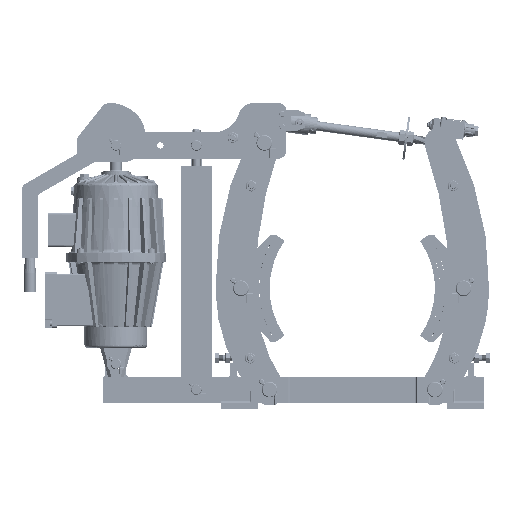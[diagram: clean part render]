
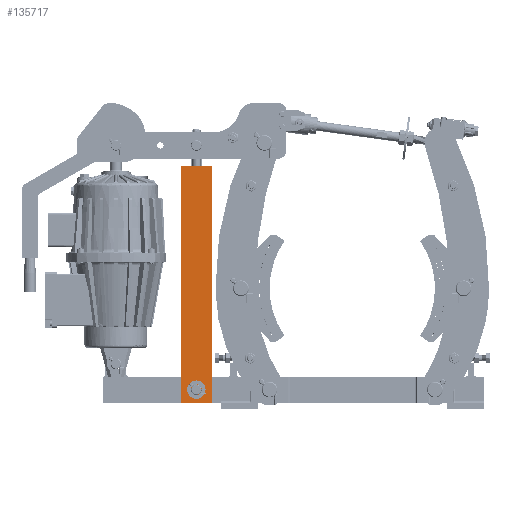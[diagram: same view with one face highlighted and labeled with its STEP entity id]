
A CAD part, left-side view. The second image highlights one B-rep face of the part: STEP entity #135717.
In plain terms, the highlighted planar face has unit normal (-1, 0, 0).
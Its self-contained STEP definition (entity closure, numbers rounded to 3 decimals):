
#135560=DIRECTION('',(0.,-1.,0.));
#135561=VECTOR('',#135560,60.);
#135562=CARTESIAN_POINT('',(-90.,577.,462.));
#135563=LINE('',#135562,#135561);
#135567=DIRECTION('',(0.,0.,-1.));
#135568=VECTOR('',#135567,450.);
#135569=CARTESIAN_POINT('',(-90.,517.,462.));
#135570=LINE('',#135569,#135568);
#135574=DIRECTION('',(0.,1.,0.));
#135575=VECTOR('',#135574,60.);
#135576=CARTESIAN_POINT('',(-90.,517.,12.));
#135577=LINE('',#135576,#135575);
#135581=DIRECTION('',(0.,0.,1.));
#135582=VECTOR('',#135581,450.);
#135583=CARTESIAN_POINT('',(-90.,577.,12.));
#135584=LINE('',#135583,#135582);
#135588=CARTESIAN_POINT('',(-90.,537.,37.));
#135589=CARTESIAN_POINT('',(-90.,537.,37.328));
#135590=CARTESIAN_POINT('',(-90.,537.032,37.982));
#135591=CARTESIAN_POINT('',(-90.,537.176,38.955));
#135592=CARTESIAN_POINT('',(-90.,537.415,39.908));
#135593=CARTESIAN_POINT('',(-90.,537.746,40.832));
#135594=CARTESIAN_POINT('',(-90.,538.167,41.723));
#135595=CARTESIAN_POINT('',(-90.,538.674,42.568));
#135596=CARTESIAN_POINT('',(-90.,539.261,43.358));
#135597=CARTESIAN_POINT('',(-90.,539.922,44.086));
#135598=CARTESIAN_POINT('',(-90.,540.65,44.746));
#135599=CARTESIAN_POINT('',(-90.,541.439,45.331));
#135600=CARTESIAN_POINT('',(-90.,542.282,45.835));
#135601=CARTESIAN_POINT('',(-90.,543.171,46.255));
#135602=CARTESIAN_POINT('',(-90.,544.093,46.585));
#135603=CARTESIAN_POINT('',(-90.,545.045,46.823));
#135604=CARTESIAN_POINT('',(-90.,546.018,46.968));
#135605=CARTESIAN_POINT('',(-90.,546.671,47.));
#135606=CARTESIAN_POINT('',(-90.,547.,47.));
#135611=CARTESIAN_POINT('',(-90.,547.,47.));
#135612=CARTESIAN_POINT('',(-90.,547.328,47.));
#135613=CARTESIAN_POINT('',(-90.,547.982,46.968));
#135614=CARTESIAN_POINT('',(-90.,548.955,46.824));
#135615=CARTESIAN_POINT('',(-90.,549.908,46.585));
#135616=CARTESIAN_POINT('',(-90.,550.832,46.254));
#135617=CARTESIAN_POINT('',(-90.,551.723,45.833));
#135618=CARTESIAN_POINT('',(-90.,552.568,45.326));
#135619=CARTESIAN_POINT('',(-90.,553.358,44.739));
#135620=CARTESIAN_POINT('',(-90.,554.086,44.078));
#135621=CARTESIAN_POINT('',(-90.,554.746,43.35));
#135622=CARTESIAN_POINT('',(-90.,555.331,42.561));
#135623=CARTESIAN_POINT('',(-90.,555.835,41.718));
#135624=CARTESIAN_POINT('',(-90.,556.255,40.829));
#135625=CARTESIAN_POINT('',(-90.,556.585,39.907));
#135626=CARTESIAN_POINT('',(-90.,556.823,38.955));
#135627=CARTESIAN_POINT('',(-90.,556.968,37.982));
#135628=CARTESIAN_POINT('',(-90.,557.,37.329));
#135629=CARTESIAN_POINT('',(-90.,557.,37.));
#135634=CARTESIAN_POINT('',(-90.,557.,37.));
#135635=CARTESIAN_POINT('',(-90.,557.,36.672));
#135636=CARTESIAN_POINT('',(-90.,556.968,36.018));
#135637=CARTESIAN_POINT('',(-90.,556.824,35.045));
#135638=CARTESIAN_POINT('',(-90.,556.585,34.092));
#135639=CARTESIAN_POINT('',(-90.,556.254,33.168));
#135640=CARTESIAN_POINT('',(-90.,555.833,32.277));
#135641=CARTESIAN_POINT('',(-90.,555.326,31.432));
#135642=CARTESIAN_POINT('',(-90.,554.739,30.642));
#135643=CARTESIAN_POINT('',(-90.,554.078,29.914));
#135644=CARTESIAN_POINT('',(-90.,553.35,29.254));
#135645=CARTESIAN_POINT('',(-90.,552.561,28.669));
#135646=CARTESIAN_POINT('',(-90.,551.718,28.165));
#135647=CARTESIAN_POINT('',(-90.,550.829,27.745));
#135648=CARTESIAN_POINT('',(-90.,549.907,27.415));
#135649=CARTESIAN_POINT('',(-90.,548.955,27.177));
#135650=CARTESIAN_POINT('',(-90.,547.982,27.032));
#135651=CARTESIAN_POINT('',(-90.,547.329,27.));
#135652=CARTESIAN_POINT('',(-90.,547.,27.));
#135657=CARTESIAN_POINT('',(-90.,547.,27.));
#135658=CARTESIAN_POINT('',(-90.,546.672,27.));
#135659=CARTESIAN_POINT('',(-90.,546.018,27.032));
#135660=CARTESIAN_POINT('',(-90.,545.045,27.176));
#135661=CARTESIAN_POINT('',(-90.,544.092,27.415));
#135662=CARTESIAN_POINT('',(-90.,543.168,27.746));
#135663=CARTESIAN_POINT('',(-90.,542.277,28.167));
#135664=CARTESIAN_POINT('',(-90.,541.432,28.674));
#135665=CARTESIAN_POINT('',(-90.,540.642,29.261));
#135666=CARTESIAN_POINT('',(-90.,539.914,29.922));
#135667=CARTESIAN_POINT('',(-90.,539.254,30.65));
#135668=CARTESIAN_POINT('',(-90.,538.669,31.439));
#135669=CARTESIAN_POINT('',(-90.,538.165,32.282));
#135670=CARTESIAN_POINT('',(-90.,537.745,33.171));
#135671=CARTESIAN_POINT('',(-90.,537.415,34.093));
#135672=CARTESIAN_POINT('',(-90.,537.177,35.045));
#135673=CARTESIAN_POINT('',(-90.,537.032,36.018));
#135674=CARTESIAN_POINT('',(-90.,537.,36.671));
#135675=CARTESIAN_POINT('',(-90.,537.,37.));
#135680=CARTESIAN_POINT('',(-90.,577.,462.));
#135681=CARTESIAN_POINT('',(-90.,517.,462.));
#135682=VERTEX_POINT('',#135680);
#135683=VERTEX_POINT('',#135681);
#135684=CARTESIAN_POINT('',(-90.,517.,12.));
#135685=VERTEX_POINT('',#135684);
#135686=CARTESIAN_POINT('',(-90.,577.,12.));
#135687=VERTEX_POINT('',#135686);
#135688=VERTEX_POINT('',#135588);
#135689=VERTEX_POINT('',#135606);
#135690=VERTEX_POINT('',#135629);
#135691=VERTEX_POINT('',#135652);
#135692=CARTESIAN_POINT('',(-90.,547.,237.));
#135693=DIRECTION('',(1.,0.,0.));
#135694=DIRECTION('',(0.,0.,1.));
#135695=AXIS2_PLACEMENT_3D('',#135692,#135693,#135694);
#135696=PLANE('',#135695);
#135698=ORIENTED_EDGE('',*,*,#135697,.T.);
#135700=ORIENTED_EDGE('',*,*,#135699,.T.);
#135702=ORIENTED_EDGE('',*,*,#135701,.T.);
#135704=ORIENTED_EDGE('',*,*,#135703,.T.);
#135705=EDGE_LOOP('',(#135698,#135700,#135702,#135704));
#135706=FACE_OUTER_BOUND('',#135705,.F.);
#135708=ORIENTED_EDGE('',*,*,#135707,.T.);
#135710=ORIENTED_EDGE('',*,*,#135709,.T.);
#135712=ORIENTED_EDGE('',*,*,#135711,.T.);
#135714=ORIENTED_EDGE('',*,*,#135713,.T.);
#135715=EDGE_LOOP('',(#135708,#135710,#135712,#135714));
#135716=FACE_BOUND('',#135715,.F.);
#135717=ADVANCED_FACE('',(#135706,#135716),#135696,.F.);
#135607=B_SPLINE_CURVE_WITH_KNOTS('',3,(#135588,#135589,#135590,#135591,#135592,
#135593,#135594,#135595,#135596,#135597,#135598,#135599,#135600,#135601,#135602,
#135603,#135604,#135605,#135606),.UNSPECIFIED.,.F.,.F.,(4,1,1,1,1,1,1,1,1,1,1,1,
1,1,1,1,4),(0.,0.063,0.125,0.188,0.25,0.313,0.375,0.438,
0.5,0.563,0.625,0.688,0.75,0.813,0.875,0.938,1.),
.UNSPECIFIED.);
#135630=B_SPLINE_CURVE_WITH_KNOTS('',3,(#135611,#135612,#135613,#135614,#135615,
#135616,#135617,#135618,#135619,#135620,#135621,#135622,#135623,#135624,#135625,
#135626,#135627,#135628,#135629),.UNSPECIFIED.,.F.,.F.,(4,1,1,1,1,1,1,1,1,1,1,1,
1,1,1,1,4),(0.,0.063,0.125,0.188,0.25,0.313,0.375,0.438,
0.5,0.563,0.625,0.688,0.75,0.813,0.875,0.938,1.),
.UNSPECIFIED.);
#135653=B_SPLINE_CURVE_WITH_KNOTS('',3,(#135634,#135635,#135636,#135637,#135638,
#135639,#135640,#135641,#135642,#135643,#135644,#135645,#135646,#135647,#135648,
#135649,#135650,#135651,#135652),.UNSPECIFIED.,.F.,.F.,(4,1,1,1,1,1,1,1,1,1,1,1,
1,1,1,1,4),(0.,0.063,0.125,0.188,0.25,0.313,0.375,0.438,
0.5,0.563,0.625,0.688,0.75,0.813,0.875,0.938,1.),
.UNSPECIFIED.);
#135676=B_SPLINE_CURVE_WITH_KNOTS('',3,(#135657,#135658,#135659,#135660,#135661,
#135662,#135663,#135664,#135665,#135666,#135667,#135668,#135669,#135670,#135671,
#135672,#135673,#135674,#135675),.UNSPECIFIED.,.F.,.F.,(4,1,1,1,1,1,1,1,1,1,1,1,
1,1,1,1,4),(0.,0.063,0.125,0.188,0.25,0.313,0.375,0.438,
0.5,0.563,0.625,0.688,0.75,0.813,0.875,0.938,1.),
.UNSPECIFIED.);
#135697=EDGE_CURVE('',#135682,#135683,#135563,.T.);
#135699=EDGE_CURVE('',#135683,#135685,#135570,.T.);
#135701=EDGE_CURVE('',#135685,#135687,#135577,.T.);
#135703=EDGE_CURVE('',#135687,#135682,#135584,.T.);
#135707=EDGE_CURVE('',#135688,#135689,#135607,.T.);
#135709=EDGE_CURVE('',#135689,#135690,#135630,.T.);
#135711=EDGE_CURVE('',#135690,#135691,#135653,.T.);
#135713=EDGE_CURVE('',#135691,#135688,#135676,.T.);
